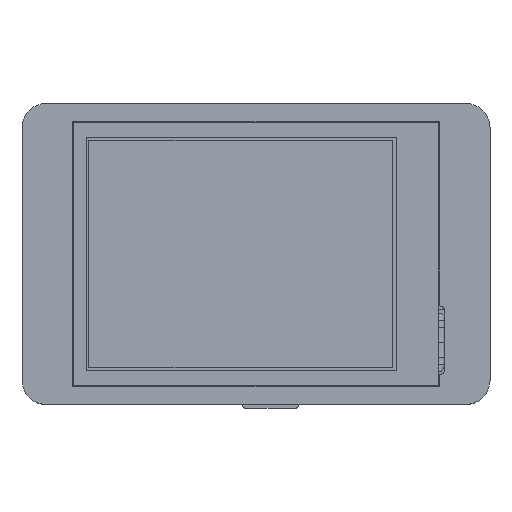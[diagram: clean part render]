
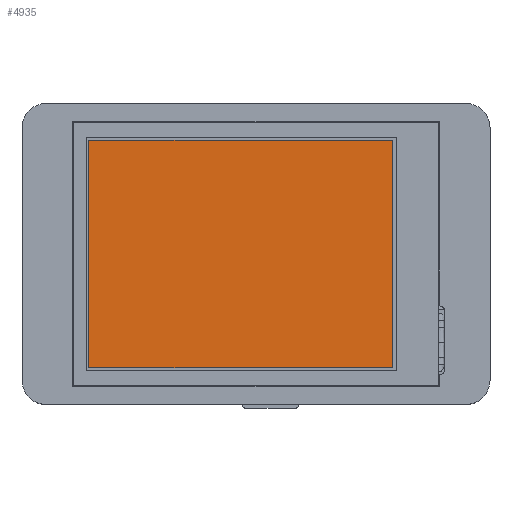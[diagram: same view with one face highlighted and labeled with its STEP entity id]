
A CAD part, top view. The second image highlights one B-rep face of the part: STEP entity #4935.
In plain terms, the highlighted planar face has unit normal (0, 0, 1).
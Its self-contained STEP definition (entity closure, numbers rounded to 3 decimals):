
#4896=DIRECTION('',(0.,1.,0.));
#4897=VECTOR('',#4896,43.2);
#4898=CARTESIAN_POINT('',(-31.7,-21.6,1.85));
#4899=LINE('',#4898,#4897);
#4900=DIRECTION('',(1.,0.,0.));
#4901=VECTOR('',#4900,57.6);
#4902=CARTESIAN_POINT('',(-31.7,21.6,1.85));
#4903=LINE('',#4902,#4901);
#4904=DIRECTION('',(0.,-1.,0.));
#4905=VECTOR('',#4904,43.2);
#4906=CARTESIAN_POINT('',(25.9,21.6,1.85));
#4907=LINE('',#4906,#4905);
#4908=DIRECTION('',(-1.,0.,0.));
#4909=VECTOR('',#4908,57.6);
#4910=CARTESIAN_POINT('',(25.9,-21.6,1.85));
#4911=LINE('',#4910,#4909);
#4912=CARTESIAN_POINT('',(-31.7,21.6,1.85));
#4913=CARTESIAN_POINT('',(-31.7,-21.6,1.85));
#4914=VERTEX_POINT('',#4912);
#4915=VERTEX_POINT('',#4913);
#4916=CARTESIAN_POINT('',(25.9,-21.6,1.85));
#4917=VERTEX_POINT('',#4916);
#4918=CARTESIAN_POINT('',(25.9,21.6,1.85));
#4919=VERTEX_POINT('',#4918);
#4920=CARTESIAN_POINT('',(31.82,-26.08,1.85));
#4921=DIRECTION('',(0.,0.,1.));
#4922=DIRECTION('',(1.,0.,0.));
#4923=AXIS2_PLACEMENT_3D('',#4920,#4921,#4922);
#4924=PLANE('',#4923);
#4926=ORIENTED_EDGE('',*,*,#4925,.T.);
#4928=ORIENTED_EDGE('',*,*,#4927,.T.);
#4930=ORIENTED_EDGE('',*,*,#4929,.T.);
#4932=ORIENTED_EDGE('',*,*,#4931,.T.);
#4933=EDGE_LOOP('',(#4926,#4928,#4930,#4932));
#4934=FACE_OUTER_BOUND('',#4933,.F.);
#4935=ADVANCED_FACE('',(#4934),#4924,.T.);
#4925=EDGE_CURVE('',#4915,#4914,#4899,.T.);
#4927=EDGE_CURVE('',#4914,#4919,#4903,.T.);
#4929=EDGE_CURVE('',#4919,#4917,#4907,.T.);
#4931=EDGE_CURVE('',#4917,#4915,#4911,.T.);
